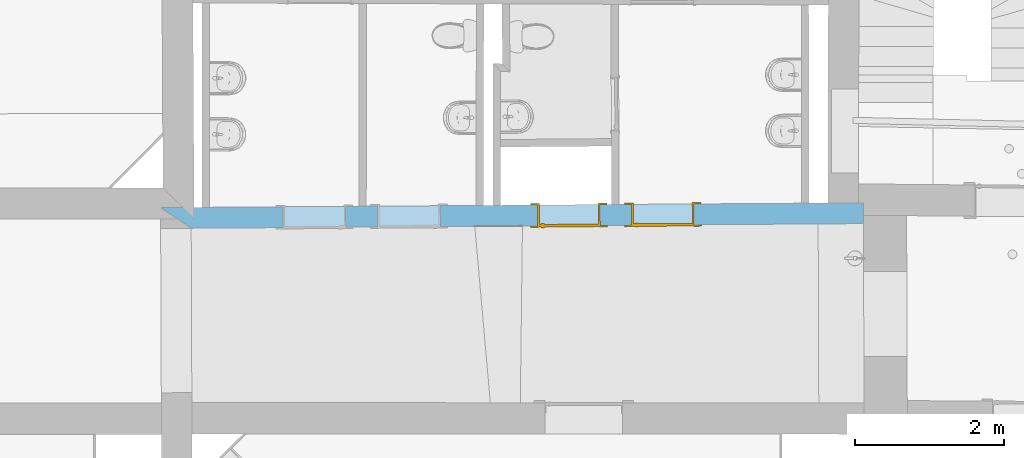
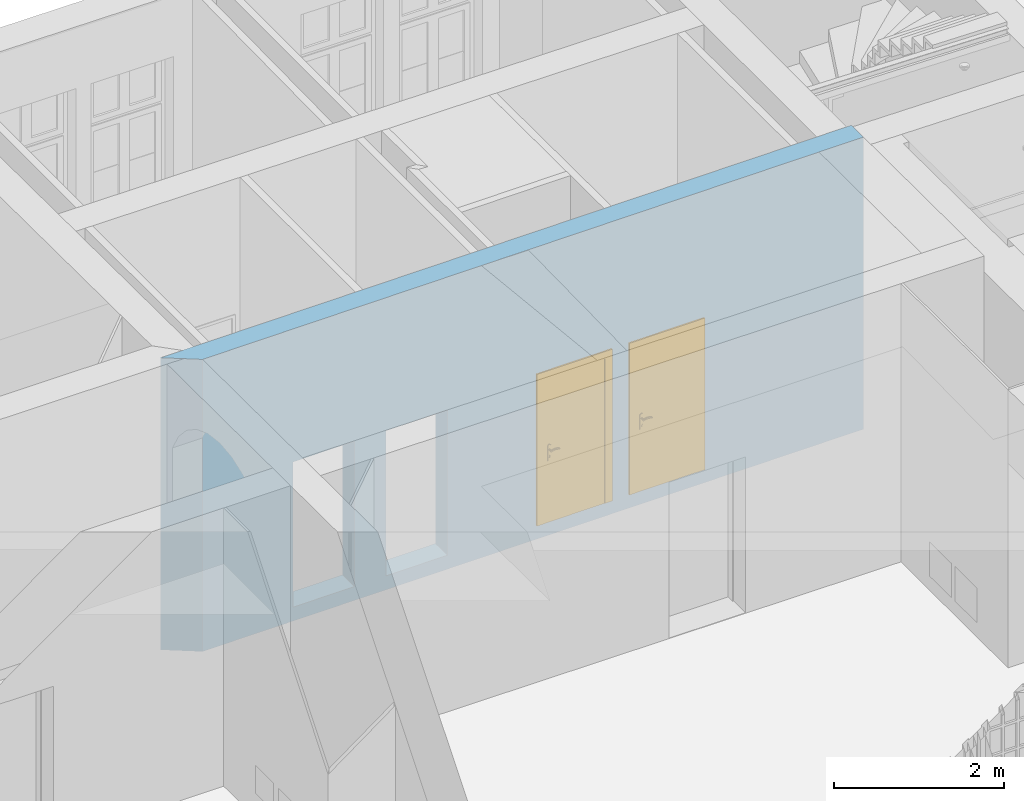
# One storey, part 30 of 90: 2 doors, 4 openings, plus 1 element that does not belong to this part.
"""IFC2X3 building model written with IfcOpenShell, lengths in metres."""

from ifc_helpers import new_model, entity, si_unit, converted_unit, derived_unit, money_unit, direction, frame, origin_with_axes, origin_2d_with_axis, place, context, subcontext, project, spatial, polyline, rectangle, outline, extrude, faceted_brep, source, transform, mapped, material, layer, layer_set, layer_usage, type_object, element, fill, save


model = new_model("IFC2X3")

# Units and contexts
model_context = context("Model", 3, precision=1e-05, world=origin_with_axes(), true_north=direction((0.0, 1.0)))
body_context = subcontext(model_context, "Body", "Model", "MODEL_VIEW")
ifc_project = project(units=[si_unit("LENGTHUNIT", "METRE"), si_unit("AREAUNIT", "SQUARE_METRE"), si_unit("VOLUMEUNIT", "CUBIC_METRE"), converted_unit("PLANEANGLEUNIT", "DEGREE", entity("IfcPlaneAngleMeasure", 0.0174532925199), si_unit("PLANEANGLEUNIT", "RADIAN"), dimensions=[0, 0, 0, 0, 0, 0, 0]), money_unit("EUR"), converted_unit("TIMEUNIT", "Year", entity("IfcTimeMeasure", 31556926.0), si_unit("TIMEUNIT", "SECOND"), dimensions=[0, 0, 1, 0, 0, 0, 0]), si_unit("MASSUNIT", "GRAM", prefix="KILO"), si_unit("THERMODYNAMICTEMPERATUREUNIT", "DEGREE_CELSIUS"), si_unit("LUMINOUSINTENSITYUNIT", "LUMEN"), si_unit("ENERGYUNIT", "JOULE", prefix="MEGA"), derived_unit("THERMALCONDUCTANCEUNIT", [(si_unit("POWERUNIT", "WATT"), 1), (si_unit("LENGTHUNIT", "METRE"), -1), (si_unit("THERMODYNAMICTEMPERATUREUNIT", "KELVIN"), -1)]), derived_unit("SPECIFICHEATCAPACITYUNIT", [(si_unit("ENERGYUNIT", "JOULE"), 1), (si_unit("MASSUNIT", "GRAM", prefix="KILO"), -1), (si_unit("THERMODYNAMICTEMPERATUREUNIT", "KELVIN"), -1)]), derived_unit("MASSDENSITYUNIT", [(si_unit("MASSUNIT", "GRAM", prefix="KILO"), 1), (si_unit("VOLUMEUNIT", "CUBIC_METRE"), -1)])], contexts=[model_context])

# Site, building, storey
site_placement = place(None, origin_with_axes())
site = spatial("IfcSite", under=ifc_project, at=site_placement, Name="Gelände", CompositionType="ELEMENT")
building_placement = place(site_placement, origin_with_axes())
building = spatial("IfcBuilding", under=site, at=building_placement, Name="Gebäude", CompositionType="ELEMENT")
storey_placement = place(building_placement, frame((0.0, 0.0, 3.7), z_axis=(0.0, 0.0, 1.0), x_axis=(1.0, 0.0, 0.0)))
storey = spatial("IfcBuildingStorey", under=building, at=storey_placement, Name="1.OBERGESCHOSS", CompositionType="ELEMENT", Elevation=3.7)

# Wall, openings, doors
ifc_material = material(Name="05_ALLGEMEIN - TRAGENDE BAUTEILE")
ifc_layer = layer(ifc_material, 0.28, ventilated="UNKNOWN")
ifc_layer_set = layer_set([ifc_layer], Name="05_ALLGEMEIN - TRAGENDE BAUTEILE 0.28")
ifc_layer_usage = layer_usage(ifc_layer_set, "AXIS2", "NEGATIVE", 0.28)
wall_type = type_object("IfcWallType", Name="05_ALLGEMEIN - TRAGENDE BAUTEILE 280", PredefinedType="ELEMENTEDWALL")
wall_placement = place(storey_placement, frame((12.5279882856, 19.1535270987, -0.1), z_axis=(0.0, 0.0, 1.0), x_axis=(0.9999762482, 0.00689224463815, 0.0)))
wall = element("IfcWallStandardCase", 1, at=wall_placement, inside=storey, type_object=wall_type, material=ifc_layer_usage, Name="Wand-038", ObjectType="ELEMENTEDWALL", context=body_context, shape_type="SweptSolid", body=[
    extrude(outline(polyline([(0.410001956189, 0.0), (9.43148530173, 0.0), (9.432443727, 0.28), (0.000864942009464, 0.28), (0.410001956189, 0.0)])), origin_with_axes(), (0.0, 0.0, 1.0), 4.2),
])
opening_1_placement = place(wall_placement, frame((2.06437671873, 0.0, 0.2), z_axis=(0.0, 0.0, 1.0), x_axis=(1.0, 0.0, 0.0)))
element("IfcOpeningElement", 2, at=opening_1_placement, cuts=wall, Name="Tür-022", context=body_context, shape_type="SweptSolid", body=[
    extrude(rectangle(XDim=0.840428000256, YDim=2.086604, at=origin_2d_with_axis()), frame((0.0, 0.28, 1.043302), z_axis=(0.0, -1.0, 0.0), x_axis=(-1.0, 0.0, 0.0)), (0.0, 0.0, 1.0), 0.84),
])
opening_2_placement = place(wall_placement, frame((3.33315273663, 0.0, 0.2), z_axis=(0.0, 0.0, 1.0), x_axis=(1.0, 0.0, 0.0)))
element("IfcOpeningElement", 3, at=opening_2_placement, cuts=wall, Name="Tür-023", context=body_context, shape_type="SweptSolid", body=[
    extrude(rectangle(XDim=0.840428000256, YDim=2.086604, at=origin_2d_with_axis()), frame((0.0, 0.28, 1.043302), z_axis=(0.0, -1.0, 0.0), x_axis=(-1.0, 0.0, 0.0)), (0.0, 0.0, 1.0), 0.84),
])
opening_3_placement = place(wall_placement, frame((5.47973669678, 0.0, 0.2), z_axis=(0.0, 0.0, 1.0), x_axis=(1.0, 0.0, 0.0)))
opening_3 = element("IfcOpeningElement", 4, at=opening_3_placement, cuts=wall, Name="Tür-024", context=body_context, shape_type="SweptSolid", body=[
    extrude(rectangle(XDim=0.840428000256, YDim=2.086604, at=origin_2d_with_axis()), frame((0.0, 0.28, 1.043302), z_axis=(0.0, 1.0, 0.0), x_axis=(1.0, 0.0, 0.0)), (0.0, 0.0, -1.0), 0.84),
])
opening_4_placement = place(wall_placement, frame((6.74065422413, 0.0, 0.2), z_axis=(0.0, 0.0, 1.0), x_axis=(1.0, 0.0, 0.0)))
opening_4 = element("IfcOpeningElement", 5, at=opening_4_placement, cuts=wall, Name="Tür-025", context=body_context, shape_type="SweptSolid", body=[
    extrude(rectangle(XDim=0.840428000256, YDim=2.086604, at=origin_2d_with_axis()), frame((0.0, 0.28, 1.043302), z_axis=(0.0, 1.0, 0.0), x_axis=(1.0, 0.0, 0.0)), (0.0, 0.0, -1.0), 0.84),
])
door_style = type_object("IfcDoorStyle", Name="Blockrahmentür 1-Fl 25", ConstructionType="NOTDEFINED", OperationType="SINGLE_SWING_LEFT", ParameterTakesPrecedence=False, Sizeable=False)
shared_shape = source(origin_with_axes(), body_context, "Body", "Brep", [
    faceted_brep([(-0.420214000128, -0.3, 0.0), (-0.420214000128, -0.3, 2.086604), (-0.420214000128, -0.02, 2.086604), (-0.420214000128, -0.02, 0.0), (-0.395214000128, -0.3, 0.0), (-0.395214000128, -0.3, 2.061604), (-0.1151, -0.3, 2.061604), (-0.0001, -0.3, 2.061604), (0.395214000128, -0.3, 2.061604), (0.395214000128, -0.3, 0.0), (0.420214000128, -0.3, 0.0), (0.420214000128, -0.3, 2.086604), (0.420214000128, -0.02, 2.086604), (0.420214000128, -0.02, 0.0), (0.395214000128, -0.02, 0.0), (0.395214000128, -0.02, 2.061604), (-0.0001, -0.02, 2.061604), (-0.1151, -0.02, 2.061604), (-0.395214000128, -0.02, 2.061604), (-0.395214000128, -0.02, 0.0)], [[[0, 1, 2, 3]], [[0, 4, 5, 6, 7, 8, 9, 10, 11, 1]], [[1, 11, 12, 2]], [[3, 2, 12, 13, 14, 15, 16, 17, 18, 19]], [[4, 0, 3, 19]], [[5, 4, 19, 18]], [[6, 5, 18, 17]], [[7, 6, 17, 16]], [[8, 7, 16, 15]], [[9, 8, 15, 14]], [[10, 9, 14, 13]], [[11, 10, 13, 12]]]),
    faceted_brep([(-0.420214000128, -0.02, 0.0), (-0.420214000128, -0.02, 2.086604), (-0.420214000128, 0.02, 2.086604), (-0.420214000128, 0.02, 0.0), (-0.410214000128, -0.02, 0.0), (-0.410214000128, -0.02, 2.076604), (-0.1001, -0.02, 2.076604), (-0.0151, -0.02, 2.076604), (0.410214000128, -0.02, 2.076604), (0.410214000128, -0.02, 0.0), (0.420214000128, -0.02, 0.0), (0.420214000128, -0.02, 2.086604), (0.420214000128, 0.02, 2.086604), (0.420214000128, 0.02, 0.0), (0.410214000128, 0.02, 0.0), (0.410214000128, 0.02, 2.076604), (-0.0151, 0.02, 2.076604), (-0.1001, 0.02, 2.076604), (-0.410214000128, 0.02, 2.076604), (-0.410214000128, 0.02, 0.0)], [[[0, 1, 2, 3]], [[0, 4, 5, 6, 7, 8, 9, 10, 11, 1]], [[1, 11, 12, 2]], [[3, 2, 12, 13, 14, 15, 16, 17, 18, 19]], [[4, 0, 3, 19]], [[5, 4, 19, 18]], [[6, 5, 18, 17]], [[7, 6, 17, 16]], [[8, 7, 16, 15]], [[9, 8, 15, 14]], [[10, 9, 14, 13]], [[11, 10, 13, 12]]]),
    faceted_brep([(-0.515214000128, -0.3, 0.0), (-0.515214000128, -0.3, 2.181604), (-0.515214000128, -0.28, 2.181604), (-0.515214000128, -0.28, 0.0), (-0.420214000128, -0.3, 0.0), (-0.420214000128, -0.3, 2.086604), (0.420214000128, -0.3, 2.086604), (0.420214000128, -0.3, 0.0), (0.515214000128, -0.3, 0.0), (0.515214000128, -0.3, 2.181604), (0.515214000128, -0.28, 2.181604), (0.515214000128, -0.28, 0.0), (0.420214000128, -0.28, 0.0), (0.420214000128, -0.28, 2.086604), (-0.420214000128, -0.28, 2.086604), (-0.420214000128, -0.28, 0.0)], [[[0, 1, 2, 3]], [[0, 4, 5, 6, 7, 8, 9, 1]], [[1, 9, 10, 2]], [[3, 2, 10, 11, 12, 13, 14, 15]], [[4, 0, 3, 15]], [[5, 4, 15, 14]], [[6, 5, 14, 13]], [[7, 6, 13, 12]], [[8, 7, 12, 11]], [[9, 8, 11, 10]]]),
    faceted_brep([(-0.515214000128, 0.0, 0.0), (-0.515214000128, 0.0, 2.181604), (-0.515214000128, 0.02, 2.181604), (-0.515214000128, 0.02, 0.0), (-0.420214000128, 0.0, 0.0), (-0.420214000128, 0.0, 2.086604), (0.420214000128, 0.0, 2.086604), (0.420214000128, 0.0, 0.0), (0.515214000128, 0.0, 0.0), (0.515214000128, 0.0, 2.181604), (0.515214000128, 0.02, 2.181604), (0.515214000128, 0.02, 0.0), (0.420214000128, 0.02, 0.0), (0.420214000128, 0.02, 2.086604), (-0.420214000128, 0.02, 2.086604), (-0.420214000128, 0.02, 0.0)], [[[0, 1, 2, 3]], [[0, 4, 5, 6, 7, 8, 9, 1]], [[1, 9, 10, 2]], [[3, 2, 10, 11, 12, 13, 14, 15]], [[4, 0, 3, 15]], [[5, 4, 15, 14]], [[6, 5, 14, 13]], [[7, 6, 13, 12]], [[8, 7, 12, 11]], [[9, 8, 11, 10]]]),
    faceted_brep([(-0.410214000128, 0.017, 0.0), (-0.410214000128, 0.017, 2.076604), (0.410214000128, 0.017, 2.076604), (0.410214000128, 0.017, 0.0), (-0.410214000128, -0.02, 0.0), (-0.410214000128, -0.02, 2.076604), (0.410214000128, -0.02, 2.076604), (0.410214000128, -0.02, 0.0)], [[[0, 1, 2, 3]], [[0, 4, 5, 1]], [[1, 5, 6, 2]], [[2, 6, 7, 3]], [[3, 7, 4, 0]], [[7, 6, 5, 4]]]),
    faceted_brep([(0.354916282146, -0.06, 1.05647213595), (0.354916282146, -0.04, 1.05647213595), (0.350214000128, -0.04, 1.058), (0.350214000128, -0.06, 1.058), (0.357822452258, -0.06, 1.05247213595), (0.357822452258, -0.04, 1.05247213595), (0.356091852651, -0.038, 1.05809016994), (0.350214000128, -0.038, 1.06), (0.34551171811, -0.04, 1.05647213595), (0.34551171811, -0.06, 1.05647213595), (0.342605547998, -0.06, 1.05247213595), (0.342605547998, -0.06, 1.04752786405), (0.34551171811, -0.06, 1.04352786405), (0.350214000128, -0.06, 1.042), (0.354916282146, -0.06, 1.04352786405), (0.357822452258, -0.06, 1.04752786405), (0.357822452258, -0.04, 1.04752786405), (0.359724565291, -0.038, 1.05309016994), (0.356091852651, -0.03, 1.05809016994), (0.350214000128, -0.03, 1.06), (0.344336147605, -0.038, 1.05809016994), (0.342605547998, -0.04, 1.05247213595), (0.342605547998, -0.04, 1.04752786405), (0.34551171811, -0.04, 1.04352786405), (0.350214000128, -0.04, 1.042), (0.354916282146, -0.04, 1.04352786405), (0.359724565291, -0.038, 1.04690983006), (0.359724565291, -0.03, 1.05309016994), (0.359724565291, -0.03, 1.04690983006), (0.356091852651, -0.03, 1.04190983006), (0.350214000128, -0.03, 1.04), (0.344336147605, -0.03, 1.04190983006), (0.340703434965, -0.03, 1.04690983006), (0.340703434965, -0.03, 1.05309016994), (0.344336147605, -0.03, 1.05809016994), (0.340703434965, -0.038, 1.05309016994), (0.340703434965, -0.038, 1.04690983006), (0.344336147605, -0.038, 1.04190983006), (0.350214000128, -0.038, 1.04), (0.356091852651, -0.038, 1.04190983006)], [[[0, 1, 2, 3]], [[4, 5, 1, 0]], [[1, 6, 7, 2]], [[3, 2, 8, 9]], [[3, 9, 10, 11, 12, 13, 14, 15, 4, 0]], [[15, 16, 5, 4]], [[5, 17, 6, 1]], [[6, 18, 19, 7]], [[2, 7, 20, 8]], [[9, 8, 21, 10]], [[10, 21, 22, 11]], [[11, 22, 23, 12]], [[12, 23, 24, 13]], [[13, 24, 25, 14]], [[14, 25, 16, 15]], [[16, 26, 17, 5]], [[17, 27, 18, 6]], [[19, 18, 27, 28, 29, 30, 31, 32, 33, 34]], [[7, 19, 34, 20]], [[8, 20, 35, 21]], [[21, 35, 36, 22]], [[22, 36, 37, 23]], [[23, 37, 38, 24]], [[24, 38, 39, 25]], [[25, 39, 26, 16]], [[26, 28, 27, 17]], [[39, 29, 28, 26]], [[38, 30, 29, 39]], [[37, 31, 30, 38]], [[36, 32, 31, 37]], [[35, 33, 32, 36]], [[20, 34, 33, 35]]]),
    faceted_brep([(0.338025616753, -0.03, 1.11759695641), (0.333414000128, -0.03, 1.11), (0.327714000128, -0.03, 1.11), (0.327714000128, -0.03, 0.89), (0.333414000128, -0.03, 0.89), (0.338025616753, -0.03, 0.882403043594), (0.345770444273, -0.03, 0.878044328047), (0.354657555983, -0.03, 0.878044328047), (0.362402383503, -0.03, 0.882403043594), (0.367014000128, -0.03, 0.89), (0.372714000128, -0.03, 0.89), (0.372714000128, -0.03, 1.11), (0.367014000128, -0.03, 1.11), (0.362402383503, -0.03, 1.11759695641), (0.354657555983, -0.03, 1.12195567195), (0.345770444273, -0.03, 1.12195567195), (0.350214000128, -0.03, 0.967425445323), (0.355589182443, -0.03, 0.965143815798), (0.357681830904, -0.03, 0.959692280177), (0.355214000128, -0.03, 0.9544), (0.355214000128, -0.03, 0.9375), (0.353749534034, -0.03, 0.933964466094), (0.350214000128, -0.03, 0.9325), (0.346678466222, -0.03, 0.933964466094), (0.345214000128, -0.03, 0.9375), (0.345214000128, -0.03, 0.9544), (0.342746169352, -0.03, 0.959692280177), (0.344838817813, -0.03, 0.965143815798), (0.338025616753, -0.02, 1.11759695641), (0.333414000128, -0.02, 1.11), (0.327714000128, -0.02, 1.11), (0.327714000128, -0.02, 0.89), (0.333414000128, -0.02, 0.89), (0.338025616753, -0.02, 0.882403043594), (0.345770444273, -0.02, 0.878044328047), (0.354657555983, -0.02, 0.878044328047), (0.362402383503, -0.02, 0.882403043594), (0.367014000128, -0.02, 0.89), (0.372714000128, -0.02, 0.89), (0.372714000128, -0.02, 1.11), (0.367014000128, -0.02, 1.11), (0.362402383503, -0.02, 1.11759695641), (0.354657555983, -0.02, 1.12195567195), (0.345770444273, -0.02, 1.12195567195), (0.350214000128, -0.02, 0.967425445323), (0.355589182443, -0.02, 0.965143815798), (0.357681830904, -0.02, 0.959692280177), (0.355214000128, -0.02, 0.9544), (0.355214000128, -0.02, 0.9375), (0.353749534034, -0.02, 0.933964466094), (0.350214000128, -0.02, 0.9325), (0.346678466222, -0.02, 0.933964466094), (0.345214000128, -0.02, 0.9375), (0.345214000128, -0.02, 0.9544), (0.342746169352, -0.02, 0.959692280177), (0.344838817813, -0.02, 0.965143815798)], [[[0, 1, 2, 3, 4, 5, 6, 7, 8, 9, 10, 11, 12, 13, 14, 15], [16, 17, 18, 19, 20, 21, 22, 23, 24, 25, 26, 27]], [[0, 28, 29, 1]], [[1, 29, 30, 2]], [[2, 30, 31, 3]], [[3, 31, 32, 4]], [[4, 32, 33, 5]], [[5, 33, 34, 6]], [[6, 34, 35, 7]], [[7, 35, 36, 8]], [[8, 36, 37, 9]], [[9, 37, 38, 10]], [[10, 38, 39, 11]], [[11, 39, 40, 12]], [[12, 40, 41, 13]], [[13, 41, 42, 14]], [[14, 42, 43, 15]], [[15, 43, 28, 0]], [[16, 44, 45, 17]], [[17, 45, 46, 18]], [[18, 46, 47, 19]], [[47, 48, 20, 19]], [[21, 20, 48, 49]], [[22, 21, 49, 50]], [[23, 22, 50, 51]], [[24, 23, 51, 52]], [[25, 24, 52, 53]], [[25, 53, 54, 26]], [[26, 54, 55, 27]], [[27, 55, 44, 16]], [[32, 31, 30, 29, 28, 43, 42, 41, 40, 39, 38, 37, 36, 35, 34, 33], [46, 45, 44, 55, 54, 53, 52, 51, 50, 49, 48, 47]]]),
    faceted_brep([(0.235961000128, -0.06, 1.057158), (0.235959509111, -0.06, 1.05719388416), (0.235959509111, -0.075, 1.05719388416), (0.235961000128, -0.075, 1.057158), (0.262988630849, -0.06, 1.06432652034), (0.290816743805, -0.06, 1.06706086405), (0.318722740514, -0.06, 1.06529002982), (0.345982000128, -0.06, 1.05906), (0.352384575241, -0.06, 1.05976125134), (0.357886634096, -0.06, 1.05641280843), (0.360205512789, -0.06, 1.05040385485), (0.35837916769, -0.06, 1.04422735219), (0.353165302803, -0.06, 1.04044577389), (0.346727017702, -0.06, 1.04062800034), (0.341735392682, -0.06, 1.04469843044), (0.341756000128, -0.06, 1.044666), (0.316467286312, -0.06, 1.05019878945), (0.290624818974, -0.06, 1.05171460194), (0.26486268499, -0.06, 1.04917624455), (0.239813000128, -0.06, 1.042646), (0.234269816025, -0.06, 1.04356849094), (0.230908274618, -0.06, 1.04807159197), (0.231599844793, -0.06, 1.05364829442), (0.231599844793, -0.075, 1.05364829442), (0.230908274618, -0.075, 1.04807159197), (0.234269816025, -0.075, 1.04356849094), (0.239813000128, -0.075, 1.042646), (0.26486268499, -0.075, 1.04917624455), (0.290624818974, -0.075, 1.05171460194), (0.316467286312, -0.075, 1.05019878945), (0.341756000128, -0.075, 1.044666), (0.341735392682, -0.075, 1.04469843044), (0.346727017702, -0.075, 1.04062800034), (0.353165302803, -0.075, 1.04044577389), (0.35837916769, -0.075, 1.04422735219), (0.360205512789, -0.075, 1.05040385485), (0.357886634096, -0.075, 1.05641280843), (0.352384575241, -0.075, 1.05976125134), (0.345982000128, -0.075, 1.05906), (0.318722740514, -0.075, 1.06529002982), (0.290816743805, -0.075, 1.06706086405), (0.262988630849, -0.075, 1.06432652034)], [[[0, 1, 2, 3]], [[0, 4, 5, 6, 7, 8, 9, 10, 11, 12, 13, 14, 15, 16, 17, 18, 19, 20, 21, 22, 1]], [[1, 22, 23, 2]], [[3, 2, 23, 24, 25, 26, 27, 28, 29, 30, 31, 32, 33, 34, 35, 36, 37, 38, 39, 40, 41]], [[4, 0, 3, 41]], [[5, 4, 41, 40]], [[6, 5, 40, 39]], [[7, 6, 39, 38]], [[8, 7, 38, 37]], [[9, 8, 37, 36]], [[10, 9, 36, 35]], [[11, 10, 35, 34]], [[12, 11, 34, 33]], [[13, 12, 33, 32]], [[14, 13, 32, 31]], [[15, 14, 31, 30]], [[16, 15, 30, 29]], [[17, 16, 29, 28]], [[18, 17, 28, 27]], [[19, 18, 27, 26]], [[20, 19, 26, 25]], [[21, 20, 25, 24]], [[22, 21, 24, 23]]]),
    faceted_brep([(0.354916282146, 0.057, 1.05647213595), (0.350214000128, 0.057, 1.058), (0.350214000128, 0.037, 1.058), (0.354916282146, 0.037, 1.05647213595), (0.357822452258, 0.057, 1.05247213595), (0.357822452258, 0.057, 1.04752786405), (0.354916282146, 0.057, 1.04352786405), (0.350214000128, 0.057, 1.042), (0.34551171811, 0.057, 1.04352786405), (0.342605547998, 0.057, 1.04752786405), (0.342605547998, 0.057, 1.05247213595), (0.34551171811, 0.057, 1.05647213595), (0.34551171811, 0.037, 1.05647213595), (0.350214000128, 0.035, 1.06), (0.356091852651, 0.035, 1.05809016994), (0.357822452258, 0.037, 1.05247213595), (0.357822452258, 0.037, 1.04752786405), (0.354916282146, 0.037, 1.04352786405), (0.350214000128, 0.037, 1.042), (0.34551171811, 0.037, 1.04352786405), (0.342605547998, 0.037, 1.04752786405), (0.342605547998, 0.037, 1.05247213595), (0.344336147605, 0.035, 1.05809016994), (0.350214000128, 0.027, 1.06), (0.356091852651, 0.027, 1.05809016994), (0.359724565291, 0.035, 1.05309016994), (0.359724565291, 0.035, 1.04690983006), (0.356091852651, 0.035, 1.04190983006), (0.350214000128, 0.035, 1.04), (0.344336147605, 0.035, 1.04190983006), (0.340703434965, 0.035, 1.04690983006), (0.340703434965, 0.035, 1.05309016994), (0.344336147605, 0.027, 1.05809016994), (0.340703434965, 0.027, 1.05309016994), (0.340703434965, 0.027, 1.04690983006), (0.344336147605, 0.027, 1.04190983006), (0.350214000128, 0.027, 1.04), (0.356091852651, 0.027, 1.04190983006), (0.359724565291, 0.027, 1.04690983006), (0.359724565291, 0.027, 1.05309016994)], [[[0, 1, 2, 3]], [[1, 0, 4, 5, 6, 7, 8, 9, 10, 11]], [[1, 11, 12, 2]], [[3, 2, 13, 14]], [[4, 0, 3, 15]], [[5, 4, 15, 16]], [[6, 5, 16, 17]], [[7, 6, 17, 18]], [[8, 7, 18, 19]], [[9, 8, 19, 20]], [[10, 9, 20, 21]], [[11, 10, 21, 12]], [[2, 12, 22, 13]], [[14, 13, 23, 24]], [[15, 3, 14, 25]], [[16, 15, 25, 26]], [[17, 16, 26, 27]], [[18, 17, 27, 28]], [[19, 18, 28, 29]], [[20, 19, 29, 30]], [[21, 20, 30, 31]], [[12, 21, 31, 22]], [[13, 22, 32, 23]], [[23, 32, 33, 34, 35, 36, 37, 38, 39, 24]], [[25, 14, 24, 39]], [[26, 25, 39, 38]], [[27, 26, 38, 37]], [[28, 27, 37, 36]], [[29, 28, 36, 35]], [[30, 29, 35, 34]], [[31, 30, 34, 33]], [[22, 31, 33, 32]]]),
    faceted_brep([(0.338025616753, 0.017, 1.11759695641), (0.333414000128, 0.017, 1.11), (0.327714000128, 0.017, 1.11), (0.327714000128, 0.017, 0.89), (0.333414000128, 0.017, 0.89), (0.338025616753, 0.017, 0.882403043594), (0.345770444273, 0.017, 0.878044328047), (0.354657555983, 0.017, 0.878044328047), (0.362402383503, 0.017, 0.882403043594), (0.367014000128, 0.017, 0.89), (0.372714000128, 0.017, 0.89), (0.372714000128, 0.017, 1.11), (0.367014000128, 0.017, 1.11), (0.362402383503, 0.017, 1.11759695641), (0.354657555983, 0.017, 1.12195567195), (0.345770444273, 0.017, 1.12195567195), (0.350214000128, 0.017, 0.967425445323), (0.355589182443, 0.017, 0.965143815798), (0.357681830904, 0.017, 0.959692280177), (0.355214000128, 0.017, 0.9544), (0.355214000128, 0.017, 0.9375), (0.353749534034, 0.017, 0.933964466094), (0.350214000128, 0.017, 0.9325), (0.346678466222, 0.017, 0.933964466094), (0.345214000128, 0.017, 0.9375), (0.345214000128, 0.017, 0.9544), (0.342746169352, 0.017, 0.959692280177), (0.344838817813, 0.017, 0.965143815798), (0.338025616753, 0.027, 1.11759695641), (0.333414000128, 0.027, 1.11), (0.327714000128, 0.027, 1.11), (0.327714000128, 0.027, 0.89), (0.333414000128, 0.027, 0.89), (0.338025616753, 0.027, 0.882403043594), (0.345770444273, 0.027, 0.878044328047), (0.354657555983, 0.027, 0.878044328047), (0.362402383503, 0.027, 0.882403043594), (0.367014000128, 0.027, 0.89), (0.372714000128, 0.027, 0.89), (0.372714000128, 0.027, 1.11), (0.367014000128, 0.027, 1.11), (0.362402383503, 0.027, 1.11759695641), (0.354657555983, 0.027, 1.12195567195), (0.345770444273, 0.027, 1.12195567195), (0.350214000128, 0.027, 0.967425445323), (0.355589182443, 0.027, 0.965143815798), (0.357681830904, 0.027, 0.959692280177), (0.355214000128, 0.027, 0.9544), (0.355214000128, 0.027, 0.9375), (0.353749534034, 0.027, 0.933964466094), (0.350214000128, 0.027, 0.9325), (0.346678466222, 0.027, 0.933964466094), (0.345214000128, 0.027, 0.9375), (0.345214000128, 0.027, 0.9544), (0.342746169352, 0.027, 0.959692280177), (0.344838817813, 0.027, 0.965143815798)], [[[0, 1, 2, 3, 4, 5, 6, 7, 8, 9, 10, 11, 12, 13, 14, 15], [16, 17, 18, 19, 20, 21, 22, 23, 24, 25, 26, 27]], [[28, 29, 1, 0]], [[29, 30, 2, 1]], [[30, 31, 3, 2]], [[31, 32, 4, 3]], [[32, 33, 5, 4]], [[33, 34, 6, 5]], [[34, 35, 7, 6]], [[35, 36, 8, 7]], [[36, 37, 9, 8]], [[37, 38, 10, 9]], [[38, 39, 11, 10]], [[39, 40, 12, 11]], [[40, 41, 13, 12]], [[41, 42, 14, 13]], [[42, 43, 15, 14]], [[43, 28, 0, 15]], [[16, 44, 45, 17]], [[17, 45, 46, 18]], [[18, 46, 47, 19]], [[47, 48, 20, 19]], [[21, 20, 48, 49]], [[22, 21, 49, 50]], [[23, 22, 50, 51]], [[24, 23, 51, 52]], [[25, 24, 52, 53]], [[25, 53, 54, 26]], [[26, 54, 55, 27]], [[27, 55, 44, 16]], [[32, 31, 30, 29, 28, 43, 42, 41, 40, 39, 38, 37, 36, 35, 34, 33], [46, 45, 44, 55, 54, 53, 52, 51, 50, 49, 48, 47]]]),
    faceted_brep([(0.235961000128, 0.057, 1.057158), (0.235961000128, 0.072, 1.057158), (0.235959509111, 0.072, 1.05719388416), (0.235959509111, 0.057, 1.05719388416), (0.262988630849, 0.057, 1.06432652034), (0.262988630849, 0.072, 1.06432652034), (0.290816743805, 0.072, 1.06706086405), (0.318722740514, 0.072, 1.06529002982), (0.345982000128, 0.072, 1.05906), (0.352384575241, 0.072, 1.05976125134), (0.357886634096, 0.072, 1.05641280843), (0.360205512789, 0.072, 1.05040385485), (0.35837916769, 0.072, 1.04422735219), (0.353165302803, 0.072, 1.04044577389), (0.346727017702, 0.072, 1.04062800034), (0.341735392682, 0.072, 1.04469843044), (0.341756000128, 0.072, 1.044666), (0.316467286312, 0.072, 1.05019878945), (0.290624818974, 0.072, 1.05171460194), (0.26486268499, 0.072, 1.04917624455), (0.239813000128, 0.072, 1.042646), (0.234269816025, 0.072, 1.04356849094), (0.230908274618, 0.072, 1.04807159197), (0.231599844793, 0.072, 1.05364829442), (0.231599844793, 0.057, 1.05364829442), (0.230908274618, 0.057, 1.04807159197), (0.234269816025, 0.057, 1.04356849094), (0.239813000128, 0.057, 1.042646), (0.26486268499, 0.057, 1.04917624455), (0.290624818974, 0.057, 1.05171460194), (0.316467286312, 0.057, 1.05019878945), (0.341756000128, 0.057, 1.044666), (0.341735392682, 0.057, 1.04469843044), (0.346727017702, 0.057, 1.04062800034), (0.353165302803, 0.057, 1.04044577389), (0.35837916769, 0.057, 1.04422735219), (0.360205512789, 0.057, 1.05040385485), (0.357886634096, 0.057, 1.05641280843), (0.352384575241, 0.057, 1.05976125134), (0.345982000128, 0.057, 1.05906), (0.318722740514, 0.057, 1.06529002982), (0.290816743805, 0.057, 1.06706086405)], [[[0, 1, 2, 3]], [[4, 5, 1, 0]], [[1, 5, 6, 7, 8, 9, 10, 11, 12, 13, 14, 15, 16, 17, 18, 19, 20, 21, 22, 23, 2]], [[3, 2, 23, 24]], [[0, 3, 24, 25, 26, 27, 28, 29, 30, 31, 32, 33, 34, 35, 36, 37, 38, 39, 40, 41, 4]], [[41, 6, 5, 4]], [[40, 7, 6, 41]], [[39, 8, 7, 40]], [[38, 9, 8, 39]], [[37, 10, 9, 38]], [[36, 11, 10, 37]], [[35, 12, 11, 36]], [[34, 13, 12, 35]], [[33, 14, 13, 34]], [[32, 15, 14, 33]], [[31, 16, 15, 32]], [[30, 17, 16, 31]], [[29, 18, 17, 30]], [[28, 19, 18, 29]], [[27, 20, 19, 28]], [[26, 21, 20, 27]], [[25, 22, 21, 26]], [[24, 23, 22, 25]]]),
])
door_1_placement = place(opening_3_placement, frame((0.395214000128, 0.0, 0.0), z_axis=(0.0, 0.0, 1.0), x_axis=(-1.0, 0.0, 0.0)))
door_1 = element("IfcDoor", 6, at=door_1_placement, inside=storey, type_object=door_style, Name="Tür-024", ObjectType="NOTDEFINED", OverallHeight=2.0866, OverallWidth=0.840428, context=body_context, shape_type="MappedRepresentation", body=[
    mapped(shared_shape, transform((0.395214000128, 0.0, 0.0))),
])
fill(opening_3, door_1)
door_2_placement = place(opening_4_placement, frame((0.395214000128, 0.0, 0.0), z_axis=(0.0, 0.0, 1.0), x_axis=(-1.0, 0.0, 0.0)))
door_2 = element("IfcDoor", 7, at=door_2_placement, inside=storey, type_object=door_style, Name="Tür-025", ObjectType="NOTDEFINED", OverallHeight=2.0866, OverallWidth=0.840428, context=body_context, shape_type="MappedRepresentation", body=[
    mapped(shared_shape, transform((0.395214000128, 0.0, 0.0))),
])
fill(opening_4, door_2)

save(model, "model.ifc")
